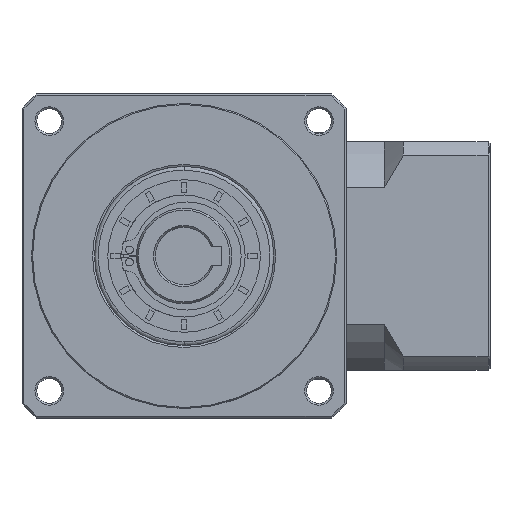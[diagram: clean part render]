
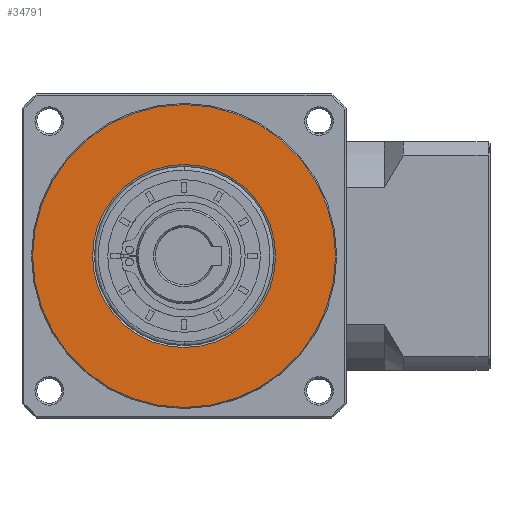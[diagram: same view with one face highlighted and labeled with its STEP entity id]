
A CAD part, left-side view. The second image highlights one B-rep face of the part: STEP entity #34791.
In plain terms, the highlighted planar face has unit normal (-1, 0, 0).
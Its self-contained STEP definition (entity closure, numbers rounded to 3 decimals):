
#7147 = DIRECTION ( 'NONE',  ( 0., 1., 0. ) ) ;
#16646 = ORIENTED_EDGE ( 'NONE', *, *, #69159, .F. ) ;
#18302 = EDGE_CURVE ( 'NONE', #120328, #155217, #76842, .T. ) ;
#18585 = CARTESIAN_POINT ( 'NONE',  ( -154.843, 153.179, 43.294 ) ) ;
#19840 = AXIS2_PLACEMENT_3D ( 'NONE', #100674, #22279, #113794 ) ;
#21013 = ORIENTED_EDGE ( 'NONE', *, *, #31997, .F. ) ;
#22279 = DIRECTION ( 'NONE',  ( 1., 0., 0. ) ) ;
#31658 = DIRECTION ( 'NONE',  ( 0., 0., -1. ) ) ;
#31997 = EDGE_CURVE ( 'NONE', #103797, #38091, #98024, .T. ) ;
#34282 = EDGE_LOOP ( 'NONE', ( #99792, #35661 ) ) ;
#34791 = ADVANCED_FACE ( 'NONE', ( #47365, #116892 ), #70180, .T. ) ;
#35661 = ORIENTED_EDGE ( 'NONE', *, *, #51529, .T. ) ;
#38091 = VERTEX_POINT ( 'NONE', #76102 ) ;
#46393 = CARTESIAN_POINT ( 'NONE',  ( -154.843, 113.467, 43.294 ) ) ;
#47365 = FACE_OUTER_BOUND ( 'NONE', #88858, .T. ) ;
#51529 = EDGE_CURVE ( 'NONE', #155217, #120328, #92280, .T. ) ;
#57575 = CARTESIAN_POINT ( 'NONE',  ( -154.843, 153.179, 43.294 ) ) ;
#60822 = CARTESIAN_POINT ( 'NONE',  ( -154.843, 153.179, 43.294 ) ) ;
#69159 = EDGE_CURVE ( 'NONE', #38091, #103797, #92313, .T. ) ;
#70180 = PLANE ( 'NONE',  #72687 ) ;
#70744 = DIRECTION ( 'NONE',  ( 0., 0., -1. ) ) ;
#72687 = AXIS2_PLACEMENT_3D ( 'NONE', #57575, #149092, #70744 ) ;
#74021 = DIRECTION ( 'NONE',  ( 0., 1., 0. ) ) ;
#76102 = CARTESIAN_POINT ( 'NONE',  ( -154.843, 192.89, 43.294 ) ) ;
#76842 = CIRCLE ( 'NONE', #128357, 24. ) ;
#81303 = CARTESIAN_POINT ( 'NONE',  ( -154.843, 153.179, 67.294 ) ) ;
#85538 = DIRECTION ( 'NONE',  ( 1., 0., 0. ) ) ;
#88858 = EDGE_LOOP ( 'NONE', ( #16646, #21013 ) ) ;
#92280 = CIRCLE ( 'NONE', #19840, 24. ) ;
#92313 = CIRCLE ( 'NONE', #153352, 39.711 ) ;
#93553 = CARTESIAN_POINT ( 'NONE',  ( -154.843, 153.179, 19.294 ) ) ;
#98024 = CIRCLE ( 'NONE', #154378, 39.711 ) ;
#99792 = ORIENTED_EDGE ( 'NONE', *, *, #18302, .T. ) ;
#100674 = CARTESIAN_POINT ( 'NONE',  ( -154.843, 153.179, 43.294 ) ) ;
#103797 = VERTEX_POINT ( 'NONE', #46393 ) ;
#110027 = DIRECTION ( 'NONE',  ( 1., 0., 0. ) ) ;
#113794 = DIRECTION ( 'NONE',  ( 0., 0., -1. ) ) ;
#116892 = FACE_BOUND ( 'NONE', #34282, .T. ) ;
#120328 = VERTEX_POINT ( 'NONE', #93553 ) ;
#128357 = AXIS2_PLACEMENT_3D ( 'NONE', #18585, #110027, #31658 ) ;
#149092 = DIRECTION ( 'NONE',  ( -1., 0., 0. ) ) ;
#152429 = DIRECTION ( 'NONE',  ( 1., 0., 0. ) ) ;
#153352 = AXIS2_PLACEMENT_3D ( 'NONE', #163919, #85538, #7147 ) ;
#154378 = AXIS2_PLACEMENT_3D ( 'NONE', #60822, #152429, #74021 ) ;
#155217 = VERTEX_POINT ( 'NONE', #81303 ) ;
#163919 = CARTESIAN_POINT ( 'NONE',  ( -154.843, 153.179, 43.294 ) ) ;
